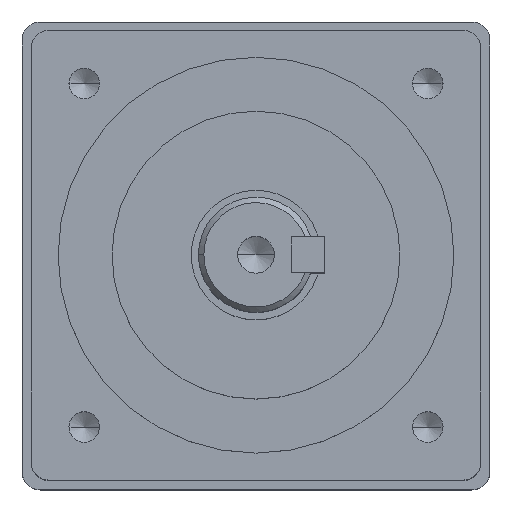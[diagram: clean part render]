
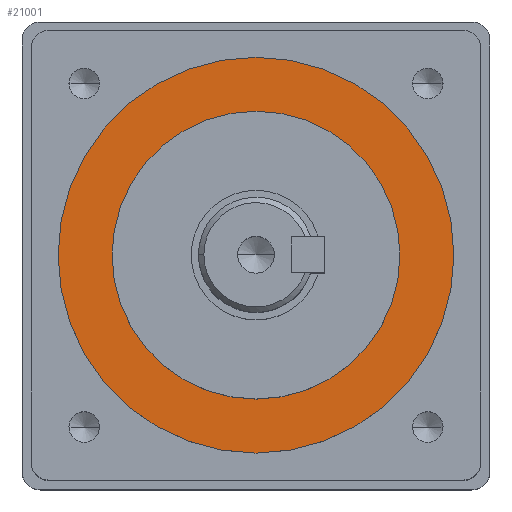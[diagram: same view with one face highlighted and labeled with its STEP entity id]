
A CAD part, top view. The second image highlights one B-rep face of the part: STEP entity #21001.
In plain terms, the highlighted planar face has unit normal (0, 0, 1).
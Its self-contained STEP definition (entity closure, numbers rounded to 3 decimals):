
#1345 = CARTESIAN_POINT ( 'NONE',  ( 0., 0., 5. ) ) ;
#1552 = VERTEX_POINT ( 'NONE', #8431 ) ;
#2155 = AXIS2_PLACEMENT_3D ( 'NONE', #18464, #3265, #20958 ) ;
#2877 = CARTESIAN_POINT ( 'NONE',  ( 0., 0., 5. ) ) ;
#3191 = CARTESIAN_POINT ( 'NONE',  ( 0., 0., 5. ) ) ;
#3265 = DIRECTION ( 'NONE',  ( 0., 0., -1. ) ) ;
#3512 = VERTEX_POINT ( 'NONE', #22165 ) ;
#3996 = DIRECTION ( 'NONE',  ( -1., 0., 0. ) ) ;
#4040 = CARTESIAN_POINT ( 'NONE',  ( 55., 0., 5. ) ) ;
#5012 = CIRCLE ( 'NONE', #2155, 55. ) ;
#5489 = DIRECTION ( 'NONE',  ( -1., 0., 0. ) ) ;
#5776 = DIRECTION ( 'NONE',  ( -1., 0., 0. ) ) ;
#5896 = FACE_OUTER_BOUND ( 'NONE', #9330, .T. ) ;
#5919 = AXIS2_PLACEMENT_3D ( 'NONE', #3191, #20888, #5776 ) ;
#6699 = FACE_BOUND ( 'NONE', #11017, .T. ) ;
#7693 = EDGE_CURVE ( 'NONE', #25917, #3512, #24876, .T. ) ;
#8151 = DIRECTION ( 'NONE',  ( 1., 0., 0. ) ) ;
#8431 = CARTESIAN_POINT ( 'NONE',  ( 40., 0., 5. ) ) ;
#9330 = EDGE_LOOP ( 'NONE', ( #28359, #10478 ) ) ;
#10478 = ORIENTED_EDGE ( 'NONE', *, *, #7693, .F. ) ;
#11017 = EDGE_LOOP ( 'NONE', ( #14425, #20125 ) ) ;
#14425 = ORIENTED_EDGE ( 'NONE', *, *, #26159, .T. ) ;
#14917 = AXIS2_PLACEMENT_3D ( 'NONE', #18214, #23163, #8151 ) ;
#15622 = PLANE ( 'NONE',  #14917 ) ;
#18214 = CARTESIAN_POINT ( 'NONE',  ( 0., 0., 5. ) ) ;
#18311 = VERTEX_POINT ( 'NONE', #30885 ) ;
#18464 = CARTESIAN_POINT ( 'NONE',  ( 0., 0., 5. ) ) ;
#18899 = EDGE_CURVE ( 'NONE', #3512, #25917, #5012, .T. ) ;
#19178 = DIRECTION ( 'NONE',  ( 0., 0., -1. ) ) ;
#20125 = ORIENTED_EDGE ( 'NONE', *, *, #26819, .T. ) ;
#20609 = DIRECTION ( 'NONE',  ( 0., 0., -1. ) ) ;
#20888 = DIRECTION ( 'NONE',  ( 0., 0., -1. ) ) ;
#20958 = DIRECTION ( 'NONE',  ( -1., 0., 0. ) ) ;
#21001 = ADVANCED_FACE ( 'NONE', ( #6699, #5896 ), #15622, .T. ) ;
#22165 = CARTESIAN_POINT ( 'NONE',  ( -55., 0., 5. ) ) ;
#22730 = CIRCLE ( 'NONE', #5919, 40. ) ;
#23163 = DIRECTION ( 'NONE',  ( 0., 0., 1. ) ) ;
#24876 = CIRCLE ( 'NONE', #31699, 55. ) ;
#25855 = AXIS2_PLACEMENT_3D ( 'NONE', #2877, #20609, #5489 ) ;
#25917 = VERTEX_POINT ( 'NONE', #4040 ) ;
#26159 = EDGE_CURVE ( 'NONE', #18311, #1552, #26212, .T. ) ;
#26212 = CIRCLE ( 'NONE', #25855, 40. ) ;
#26819 = EDGE_CURVE ( 'NONE', #1552, #18311, #22730, .T. ) ;
#28359 = ORIENTED_EDGE ( 'NONE', *, *, #18899, .F. ) ;
#30885 = CARTESIAN_POINT ( 'NONE',  ( -40., 0., 5. ) ) ;
#31699 = AXIS2_PLACEMENT_3D ( 'NONE', #1345, #19178, #3996 ) ;
